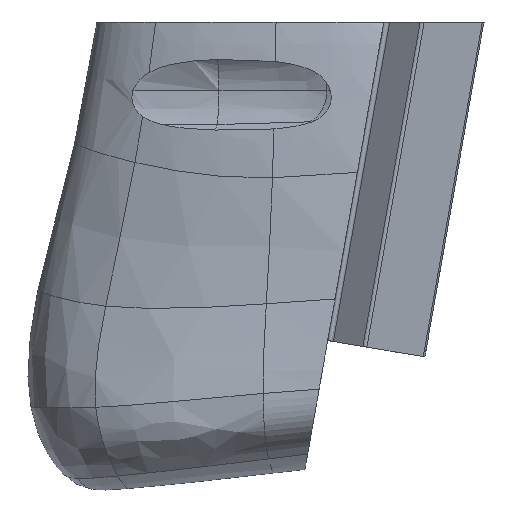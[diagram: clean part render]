
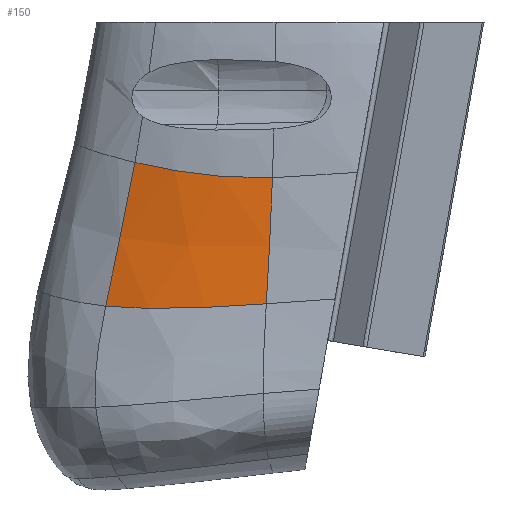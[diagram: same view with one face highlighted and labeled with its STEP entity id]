
A CAD part, front view. The second image highlights one B-rep face of the part: STEP entity #150.
In plain terms, the highlighted free-form (B-spline) face has degree [3, 3] with [5, 5] control points.
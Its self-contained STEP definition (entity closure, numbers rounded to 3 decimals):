
#150=ADVANCED_FACE('',(#230),#1343,.T.);
#230=FACE_OUTER_BOUND('',#310,.T.);
#310=EDGE_LOOP('',(#402,#403,#404,#405));
#402=ORIENTED_EDGE('',*,*,#794,.T.);
#403=ORIENTED_EDGE('',*,*,#805,.T.);
#404=ORIENTED_EDGE('',*,*,#806,.F.);
#405=ORIENTED_EDGE('',*,*,#787,.F.);
#787=EDGE_CURVE('',#1194,#1201,#1049,.T.);
#794=EDGE_CURVE('',#1194,#1199,#1056,.T.);
#805=EDGE_CURVE('',#1199,#1205,#1067,.T.);
#806=EDGE_CURVE('',#1201,#1205,#1068,.T.);
#1049=B_SPLINE_CURVE_WITH_KNOTS('',3,(#5630,#5631,#5632,#5633,#5634),
 .UNSPECIFIED.,.F.,.F.,(4,1,4),(0.,1.,2.),.UNSPECIFIED.);
#1056=B_SPLINE_CURVE_WITH_KNOTS('',3,(#5675,#5676,#5677,#5678,#5679),
 .UNSPECIFIED.,.F.,.F.,(4,1,4),(0.,1.,2.),.UNSPECIFIED.);
#1067=B_SPLINE_CURVE_WITH_KNOTS('',3,(#5737,#5738,#5739,#5740,#5741),
 .UNSPECIFIED.,.F.,.F.,(4,1,4),(0.,1.,2.),.UNSPECIFIED.);
#1068=B_SPLINE_CURVE_WITH_KNOTS('',3,(#5742,#5743,#5744,#5745,#5746),
 .UNSPECIFIED.,.F.,.F.,(4,1,4),(0.,1.,2.),.UNSPECIFIED.);
#1194=VERTEX_POINT('',#5452);
#1199=VERTEX_POINT('',#5457);
#1201=VERTEX_POINT('',#5459);
#1205=VERTEX_POINT('',#5463);
#1343=B_SPLINE_SURFACE_WITH_KNOTS('',3,3,((#1684,#1685,#1686,#1687,#1688),
(#1689,#1690,#1691,#1692,#1693),(#1694,#1695,#1696,#1697,#1698),(#1699,
#1700,#1701,#1702,#1703),(#1704,#1705,#1706,#1707,#1708)),.UNSPECIFIED.,
 .F.,.F.,.F.,(4,1,4),(4,1,4),(0.,1.,2.),(0.,1.,2.),.UNSPECIFIED.);
#1684=CARTESIAN_POINT('',(-60.543,-13.339,48.949));
#1685=CARTESIAN_POINT('',(-59.725,-12.537,53.048));
#1686=CARTESIAN_POINT('',(-57.725,-11.538,62.256));
#1687=CARTESIAN_POINT('',(-55.635,-11.044,72.407));
#1688=CARTESIAN_POINT('',(-54.727,-10.749,77.45));
#1689=CARTESIAN_POINT('',(-56.293,-15.48,48.511));
#1690=CARTESIAN_POINT('',(-55.551,-14.597,52.486));
#1691=CARTESIAN_POINT('',(-53.76,-13.486,61.439));
#1692=CARTESIAN_POINT('',(-51.894,-12.905,71.496));
#1693=CARTESIAN_POINT('',(-51.077,-12.551,76.574));
#1694=CARTESIAN_POINT('',(-46.191,-18.859,48.328));
#1695=CARTESIAN_POINT('',(-45.682,-17.911,52.009));
#1696=CARTESIAN_POINT('',(-44.485,-16.721,60.224));
#1697=CARTESIAN_POINT('',(-43.241,-16.026,69.828));
#1698=CARTESIAN_POINT('',(-42.687,-15.573,74.896));
#1699=CARTESIAN_POINT('',(-34.514,-21.166,49.002));
#1700=CARTESIAN_POINT('',(-34.239,-20.215,52.483));
#1701=CARTESIAN_POINT('',(-33.613,-18.96,60.124));
#1702=CARTESIAN_POINT('',(-32.985,-18.111,69.266));
#1703=CARTESIAN_POINT('',(-32.71,-17.567,74.249));
#1704=CARTESIAN_POINT('',(-28.689,-22.235,49.419));
#1705=CARTESIAN_POINT('',(-28.492,-21.265,52.872));
#1706=CARTESIAN_POINT('',(-28.052,-19.911,60.421));
#1707=CARTESIAN_POINT('',(-27.641,-18.934,69.461));
#1708=CARTESIAN_POINT('',(-27.472,-18.341,74.404));
#5452=CARTESIAN_POINT('',(-60.543,-13.339,48.949));
#5457=CARTESIAN_POINT('',(-28.689,-22.235,49.419));
#5459=CARTESIAN_POINT('',(-54.727,-10.749,77.45));
#5463=CARTESIAN_POINT('',(-27.472,-18.341,74.404));
#5630=CARTESIAN_POINT('',(-60.543,-13.339,48.949));
#5631=CARTESIAN_POINT('',(-59.725,-12.537,53.048));
#5632=CARTESIAN_POINT('',(-57.725,-11.538,62.256));
#5633=CARTESIAN_POINT('',(-55.635,-11.044,72.407));
#5634=CARTESIAN_POINT('',(-54.727,-10.749,77.45));
#5675=CARTESIAN_POINT('',(-60.543,-13.339,48.949));
#5676=CARTESIAN_POINT('',(-56.293,-15.48,48.511));
#5677=CARTESIAN_POINT('',(-46.191,-18.859,48.328));
#5678=CARTESIAN_POINT('',(-34.514,-21.166,49.002));
#5679=CARTESIAN_POINT('',(-28.689,-22.235,49.419));
#5737=CARTESIAN_POINT('',(-28.689,-22.235,49.419));
#5738=CARTESIAN_POINT('',(-28.492,-21.265,52.872));
#5739=CARTESIAN_POINT('',(-28.052,-19.911,60.421));
#5740=CARTESIAN_POINT('',(-27.641,-18.934,69.461));
#5741=CARTESIAN_POINT('',(-27.472,-18.341,74.404));
#5742=CARTESIAN_POINT('',(-54.727,-10.749,77.45));
#5743=CARTESIAN_POINT('',(-51.077,-12.551,76.574));
#5744=CARTESIAN_POINT('',(-42.687,-15.573,74.896));
#5745=CARTESIAN_POINT('',(-32.71,-17.567,74.249));
#5746=CARTESIAN_POINT('',(-27.472,-18.341,74.404));
